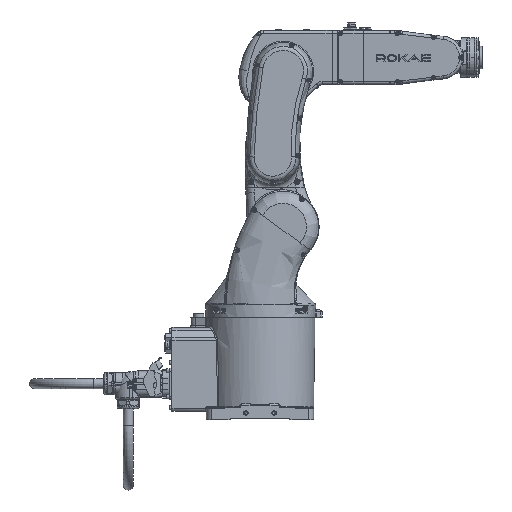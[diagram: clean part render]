
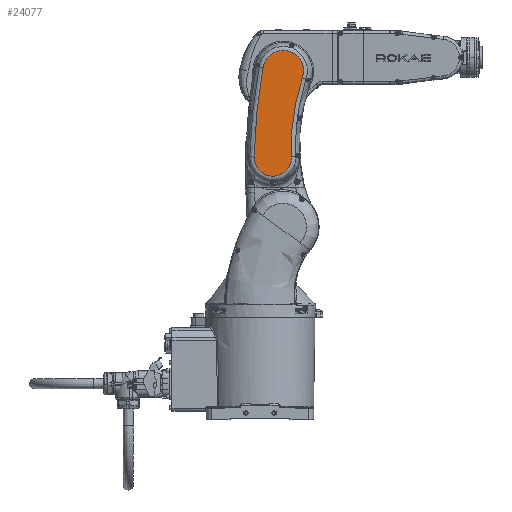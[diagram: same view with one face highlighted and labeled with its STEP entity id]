
A CAD part, front view. The second image highlights one B-rep face of the part: STEP entity #24077.
In plain terms, the highlighted planar face has unit normal (0, -1, 0).
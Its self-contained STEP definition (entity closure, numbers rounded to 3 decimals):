
#4680=B_SPLINE_CURVE_WITH_KNOTS('',3,(#159310,#159311,#159312,#159313,#159314,
#159315,#159316,#159317,#159318,#159319,#159320,#159321,#159322,#159323,
#159324,#159325,#159326,#159327,#159328,#159329,#159330,#159331,#159332,
#159333,#159334,#159335),.UNSPECIFIED.,.F.,.F.,(4,2,2,2,2,2,2,2,2,2,2,2,
4),(0.,0.063,0.125,0.188,0.25,
0.375,0.438,0.5,0.625,
0.688,0.75,0.875,1.),.UNSPECIFIED.);
#4702=B_SPLINE_CURVE_WITH_KNOTS('',3,(#159997,#159998,#159999,#160000,#160001,
#160002,#160003,#160004,#160005,#160006,#160007,#160008,#160009,#160010,
#160011,#160012,#160013,#160014,#160015,#160016,#160017,#160018,#160019,
#160020),.UNSPECIFIED.,.F.,.F.,(4,2,2,2,2,2,2,2,2,2,2,4),(0.,0.125,
0.187,0.25,0.375,0.5,0.563,0.625,
0.75,0.813,0.875,1.),.UNSPECIFIED.);
#4716=B_SPLINE_CURVE_WITH_KNOTS('',3,(#160304,#160305,#160306,#160307),
 .UNSPECIFIED.,.F.,.F.,(4,4),(0.,1.),.UNSPECIFIED.);
#4718=B_SPLINE_CURVE_WITH_KNOTS('',3,(#160336,#160337,#160338,#160339,#160340,
#160341),.UNSPECIFIED.,.F.,.F.,(4,2,4),(0.,0.5,1.),.UNSPECIFIED.);
#19055=FACE_OUTER_BOUND('',#33439,.T.);
#24077=ADVANCED_FACE('',(#19055),#27807,.T.);
#27807=PLANE('',#87250);
#33439=EDGE_LOOP('',(#48738,#48739,#48740,#48741));
#48738=ORIENTED_EDGE('',*,*,#72452,.T.);
#48739=ORIENTED_EDGE('',*,*,#72438,.T.);
#48740=ORIENTED_EDGE('',*,*,#72454,.T.);
#48741=ORIENTED_EDGE('',*,*,#72416,.T.);
#63313=VERTEX_POINT('',#159309);
#63314=VERTEX_POINT('',#159336);
#63332=VERTEX_POINT('',#159996);
#63333=VERTEX_POINT('',#160021);
#72416=EDGE_CURVE('',#63314,#63313,#4680,.T.);
#72438=EDGE_CURVE('',#63333,#63332,#4702,.T.);
#72452=EDGE_CURVE('',#63313,#63333,#4716,.T.);
#72454=EDGE_CURVE('',#63332,#63314,#4718,.T.);
#87250=AXIS2_PLACEMENT_3D('',#168352,#101463,#101464);
#101463=DIRECTION('',(0.,-1.,0.));
#101464=DIRECTION('',(0.,0.,1.));
#159309=CARTESIAN_POINT('',(-35.542,-94.,282.248));
#159310=CARTESIAN_POINT('',(34.174,-94.,263.995));
#159311=CARTESIAN_POINT('',(35.002,-94.,266.386));
#159312=CARTESIAN_POINT('',(35.587,-94.,268.817));
#159313=CARTESIAN_POINT('',(36.255,-94.,273.765));
#159314=CARTESIAN_POINT('',(36.343,-94.,276.31));
#159315=CARTESIAN_POINT('',(35.997,-94.,281.314));
#159316=CARTESIAN_POINT('',(35.573,-94.,283.772));
#159317=CARTESIAN_POINT('',(34.23,-94.,288.602));
#159318=CARTESIAN_POINT('',(33.302,-94.,290.974));
#159319=CARTESIAN_POINT('',(29.863,-94.,297.623));
#159320=CARTESIAN_POINT('',(26.619,-94.,301.622));
#159321=CARTESIAN_POINT('',(20.788,-94.,306.314));
#159322=CARTESIAN_POINT('',(18.644,-94.,307.692));
#159323=CARTESIAN_POINT('',(14.169,-94.,309.949));
#159324=CARTESIAN_POINT('',(11.837,-94.,310.839));
#159325=CARTESIAN_POINT('',(4.546,-94.,312.75));
#159326=CARTESIAN_POINT('',(-0.567,-94.,312.974));
#159327=CARTESIAN_POINT('',(-8.02,-94.,311.736));
#159328=CARTESIAN_POINT('',(-10.424,-94.,311.066));
#159329=CARTESIAN_POINT('',(-15.084,-94.,309.241));
#159330=CARTESIAN_POINT('',(-17.352,-94.,308.072));
#159331=CARTESIAN_POINT('',(-23.626,-94.,303.968));
#159332=CARTESIAN_POINT('',(-27.261,-94.,300.329));
#159333=CARTESIAN_POINT('',(-32.757,-94.,291.996));
#159334=CARTESIAN_POINT('',(-34.667,-94.,287.233));
#159335=CARTESIAN_POINT('',(-35.545,-94.,282.248));
#159336=CARTESIAN_POINT('',(34.173,-94.,263.996));
#159996=CARTESIAN_POINT('',(14.67,-94.,124.714));
#159997=CARTESIAN_POINT('',(-51.285,-94.,123.748));
#159998=CARTESIAN_POINT('',(-51.381,-94.,119.274));
#159999=CARTESIAN_POINT('',(-50.579,-94.,114.861));
#160000=CARTESIAN_POINT('',(-48.126,-94.,108.674));
#160001=CARTESIAN_POINT('',(-47.114,-94.,106.714));
#160002=CARTESIAN_POINT('',(-44.701,-94.,102.999));
#160003=CARTESIAN_POINT('',(-43.29,-94.,101.242));
#160004=CARTESIAN_POINT('',(-38.648,-94.,96.516));
#160005=CARTESIAN_POINT('',(-34.879,-94.,93.97));
#160006=CARTESIAN_POINT('',(-26.724,-94.,90.599));
#160007=CARTESIAN_POINT('',(-22.264,-94.,89.739));
#160008=CARTESIAN_POINT('',(-15.625,-94.,89.828));
#160009=CARTESIAN_POINT('',(-13.384,-94.,90.088));
#160010=CARTESIAN_POINT('',(-9.069,-94.,91.04));
#160011=CARTESIAN_POINT('',(-6.971,-94.,91.73));
#160012=CARTESIAN_POINT('',(-0.858,-94.,94.457));
#160013=CARTESIAN_POINT('',(2.796,-94.,97.083));
#160014=CARTESIAN_POINT('',(7.329,-94.,101.97));
#160015=CARTESIAN_POINT('',(8.66,-94.,103.731));
#160016=CARTESIAN_POINT('',(10.968,-94.,107.509));
#160017=CARTESIAN_POINT('',(11.945,-94.,109.541));
#160018=CARTESIAN_POINT('',(14.209,-94.,115.77));
#160019=CARTESIAN_POINT('',(14.859,-94.,120.246));
#160020=CARTESIAN_POINT('',(14.669,-94.,124.714));
#160021=CARTESIAN_POINT('',(-51.286,-94.,123.748));
#160304=CARTESIAN_POINT('',(-35.542,-94.,282.248));
#160305=CARTESIAN_POINT('',(-44.993,-94.,229.928));
#160306=CARTESIAN_POINT('',(-50.255,-94.,176.904));
#160307=CARTESIAN_POINT('',(-51.287,-94.,123.748));
#160336=CARTESIAN_POINT('',(14.671,-94.,124.714));
#160337=CARTESIAN_POINT('',(13.717,-94.,148.286));
#160338=CARTESIAN_POINT('',(14.898,-94.,171.931));
#160339=CARTESIAN_POINT('',(21.448,-94.,218.604));
#160340=CARTESIAN_POINT('',(26.806,-94.,241.584));
#160341=CARTESIAN_POINT('',(34.171,-94.,263.996));
#168352=CARTESIAN_POINT('',(200.269,-94.,132.195));
